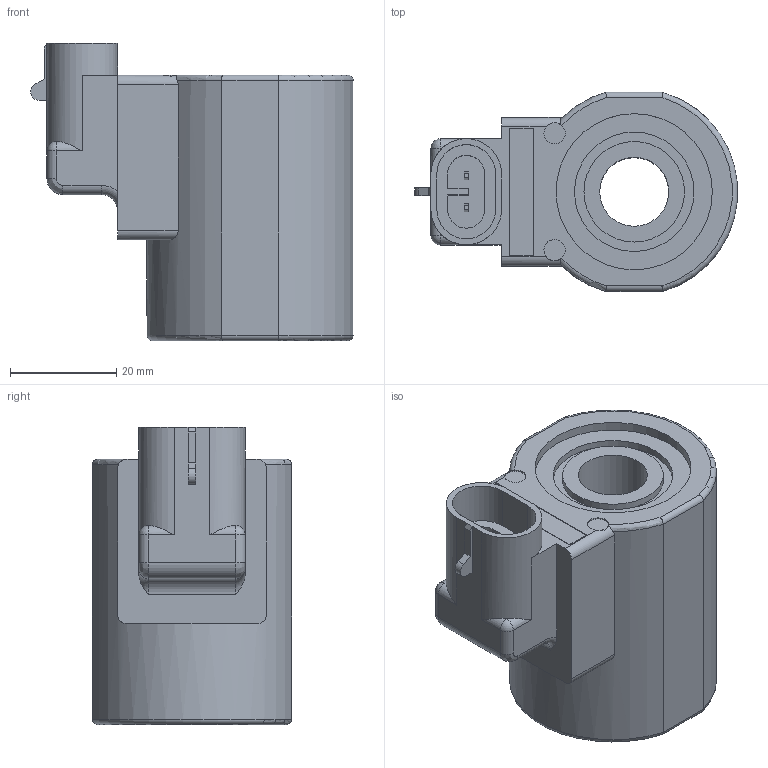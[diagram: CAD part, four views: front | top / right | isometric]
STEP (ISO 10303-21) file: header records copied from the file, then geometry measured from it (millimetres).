
FILE_DESCRIPTION((''),'2;1');
FILE_NAME('Q:\Delta CADD Insertion Codes\3D Solid models\Coils\STEP\DIA.stp','2012-06-04T10:03:33',('Dan'),(''),'Autodesk Inventor 2012','Autodesk Inventor 2012','');
FILE_SCHEMA(('AUTOMOTIVE_DESIGN { 1 0 10303 214 1 1 1 1 }'));
Length unit declared in the file: inch
Products named in the file (1): Part10
Bounding box: 60.78 x 37.5 x 56 mm (x, y, z)
Volume: 61645.2 mm3; surface area: 13982.4 mm2
Topology: 1 solids, 1 shells, 106 faces, 258 edges, 165 vertices
Faces by surface type: plane 59, cylinder 36, torus 7, sphere 2, bspline 2
Full cylindrical faces by diameter (mm): 4 x2, 13.005 x1, 18.948 x2, 22.504 x2, 29.439 x2
Entity records: 3347 total; most frequent: CARTESIAN_POINT 875, DIRECTION 501, ORIENTED_EDGE 492, EDGE_CURVE 246, AXIS2_PLACEMENT_3D 174, VERTEX_POINT 162, VECTOR 153, LINE 153
